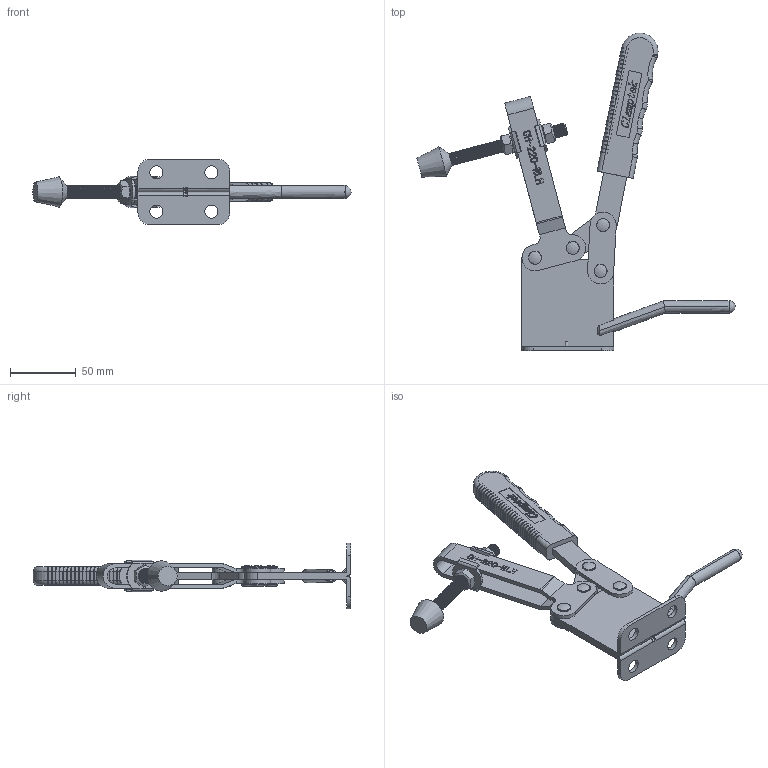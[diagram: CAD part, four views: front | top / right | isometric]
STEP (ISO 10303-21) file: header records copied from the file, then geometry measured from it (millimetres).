
FILE_DESCRIPTION(/* description */ ('STEP AP203'),/* implementation_level */ '2;1');
FILE_NAME(/* name */ 'E:\STRONA\Horizontal toggle clamp\CH-220-WLH\CH-220-WLH_OTWARTY.stp',/* time_stamp */ '2019-01-15T14:46:33+01:00',/* author */ ('Admin'),/* organization */ ('Î¢ÈíÖÐ¹ú'),/* preprocessor_version */ 'ST-DEVELOPER v17.2',/* originating_system */ 'Autodesk Inventor 2019',/* authorisation */ '');
FILE_SCHEMA (('AUTOMOTIVE_DESIGN { 1 0 10303 214 3 1 1 }'));
Products named in the file (10): CH-220-WLH_OTWARTY; 200-W-06; 200-W-03; 220-WLH-02; 38412; 38312-01; 220-WLH-01-05_Ä¬ÈÏ_°´¼Ó
¹¤_; 200-W-05; 200-W-04; FW380
Assembly tree (15 placements, depth 2):
  CH-220-WLH_OTWARTY
    200-W-06
    200-W-04  x2
    200-W-05  x4
    FW380  x2
    200-W-03
    38312-01  x2
    220-WLH-02
    38412
    220-WLH-01-05_Ä¬ÈÏ_°´¼Ó
¹¤_
Bounding box: 242.95 x 242.5 x 50 mm (x, y, z)
Volume: 135350.2 mm3; surface area: 75588.3 mm2
Topology: 15 solids, 16 shells, 1403 faces, 3756 edges, 2440 vertices
Faces by surface type: plane 612, bspline 344, cylinder 303, torus 92, cone 41, sphere 11
Full cylindrical faces by diameter (mm): 3.128 x1, 4.4 x1, 5 x4, 6.3 x4, 6.4 x12, 9.5 x60, 9.8 x2, 10 x12, 13.856 x1
Entity records: 86043 total; most frequent: CARTESIAN_POINT 55088, ORIENTED_EDGE 7010, DIRECTION 5235, EDGE_CURVE 3505, VERTEX_POINT 2267, LINE 2055, VECTOR 2055, AXIS2_PLACEMENT_3D 1590
